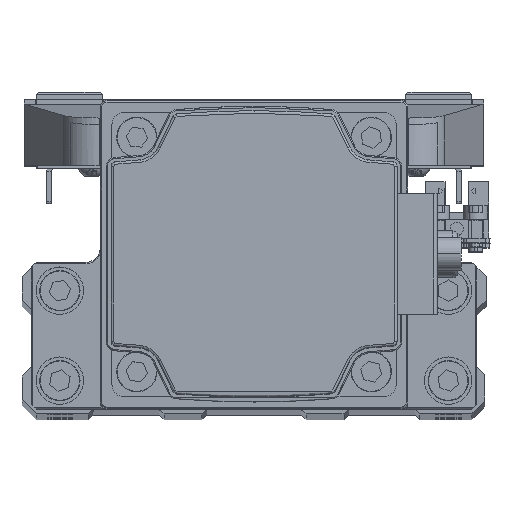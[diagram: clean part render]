
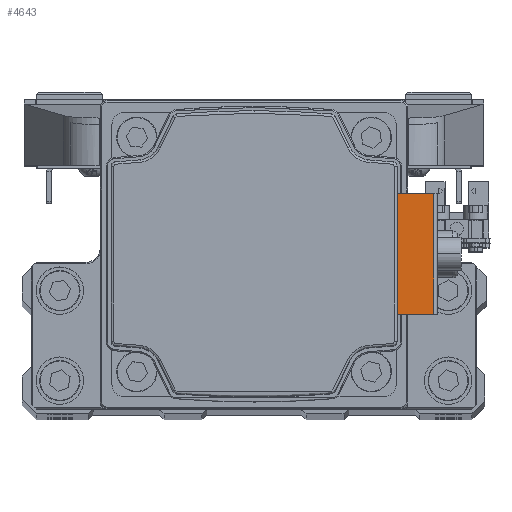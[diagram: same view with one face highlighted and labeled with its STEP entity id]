
A CAD part, top view. The second image highlights one B-rep face of the part: STEP entity #4643.
In plain terms, the highlighted planar face has unit normal (0, 0, 1) as drawn and (0, 0, -1) by its records, which use the part's own axes.
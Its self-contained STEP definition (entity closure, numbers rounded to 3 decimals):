
#1059 = CARTESIAN_POINT ( 'NONE',  ( 12.75, 37.9, -88.696 ) ) ;
#1901 = DIRECTION ( 'NONE',  ( 1., 0., 0. ) ) ;
#2115 = VERTEX_POINT ( 'NONE', #1059 ) ;
#2445 = LINE ( 'NONE', #17214, #13972 ) ;
#3937 = CARTESIAN_POINT ( 'NONE',  ( 0., 37.9, -88.696 ) ) ;
#4099 = EDGE_CURVE ( 'NONE', #37265, #35933, #2445, .T. ) ;
#4643 = ADVANCED_FACE ( 'NONE', ( #21550 ), #35707, .T. ) ;
#4762 = DIRECTION ( 'NONE',  ( 0., 1., 0. ) ) ;
#6491 = AXIS2_PLACEMENT_3D ( 'NONE', #3937, #18068, #32218 ) ;
#12242 = CARTESIAN_POINT ( 'NONE',  ( 12.75, 30.2, -88.696 ) ) ;
#13972 = VECTOR ( 'NONE', #31363, 1000. ) ;
#14142 = CARTESIAN_POINT ( 'NONE',  ( -12.75, 37.9, -88.696 ) ) ;
#14508 = LINE ( 'NONE', #28661, #38175 ) ;
#14576 = ORIENTED_EDGE ( 'NONE', *, *, #21810, .F. ) ;
#16135 = VERTEX_POINT ( 'NONE', #12242 ) ;
#17214 = CARTESIAN_POINT ( 'NONE',  ( -12.75, 37.9, -88.696 ) ) ;
#17232 = ORIENTED_EDGE ( 'NONE', *, *, #24870, .F. ) ;
#18068 = DIRECTION ( 'NONE',  ( 0., 0., -1. ) ) ;
#19517 = LINE ( 'NONE', #33672, #24200 ) ;
#21550 = FACE_OUTER_BOUND ( 'NONE', #25645, .T. ) ;
#21810 = EDGE_CURVE ( 'NONE', #16135, #2115, #22368, .T. ) ;
#22368 = LINE ( 'NONE', #36531, #31386 ) ;
#24200 = VECTOR ( 'NONE', #1901, 1000. ) ;
#24870 = EDGE_CURVE ( 'NONE', #37265, #16135, #14508, .T. ) ;
#25645 = EDGE_LOOP ( 'NONE', ( #28545, #29137, #14576, #17232 ) ) ;
#27892 = CARTESIAN_POINT ( 'NONE',  ( -12.75, 30.2, -88.696 ) ) ;
#28545 = ORIENTED_EDGE ( 'NONE', *, *, #4099, .T. ) ;
#28661 = CARTESIAN_POINT ( 'NONE',  ( 18.438, 30.2, -88.696 ) ) ;
#29137 = ORIENTED_EDGE ( 'NONE', *, *, #29239, .T. ) ;
#29239 = EDGE_CURVE ( 'NONE', #35933, #2115, #19517, .T. ) ;
#31363 = DIRECTION ( 'NONE',  ( 0., 1., 0. ) ) ;
#31386 = VECTOR ( 'NONE', #4762, 1000. ) ;
#32218 = DIRECTION ( 'NONE',  ( -1., 0., 0. ) ) ;
#33672 = CARTESIAN_POINT ( 'NONE',  ( 0., 37.9, -88.696 ) ) ;
#35707 = PLANE ( 'NONE',  #6491 ) ;
#35933 = VERTEX_POINT ( 'NONE', #14142 ) ;
#36531 = CARTESIAN_POINT ( 'NONE',  ( 12.75, 33.991, -88.696 ) ) ;
#37265 = VERTEX_POINT ( 'NONE', #27892 ) ;
#38175 = VECTOR ( 'NONE', #42841, 1000. ) ;
#42841 = DIRECTION ( 'NONE',  ( 1., 0., 0. ) ) ;
